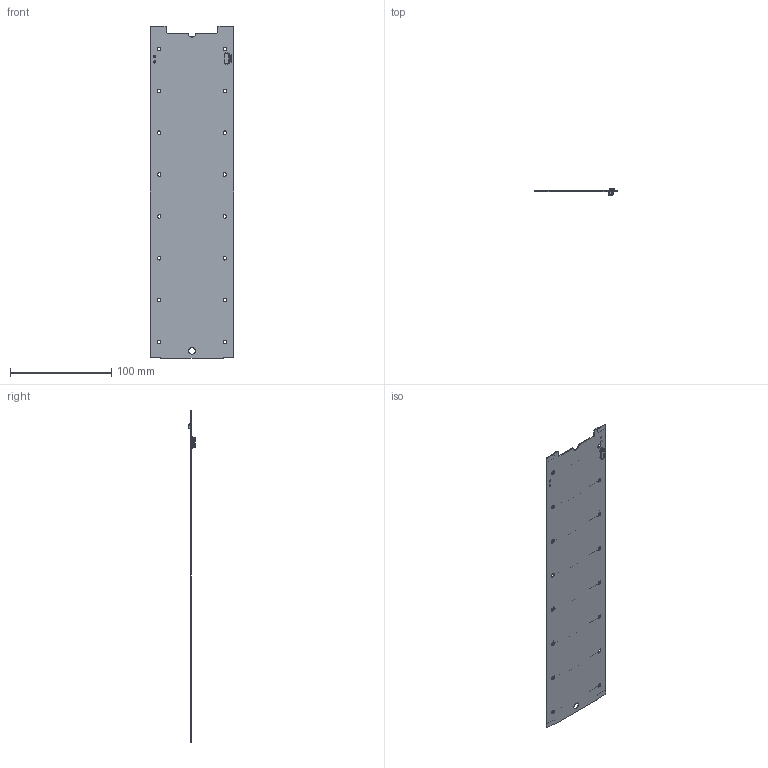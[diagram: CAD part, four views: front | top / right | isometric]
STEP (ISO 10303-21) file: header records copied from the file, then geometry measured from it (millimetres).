
FILE_DESCRIPTION (( 'STEP AP214' ), '1' );
FILE_NAME ('710-00772-B CSK 3U Fixed Solar Panel 031.STEP', '2019-05-31T00:12:26', ( '' ), ( '' ), 'SwSTEP 2.0', 'SolidWorks 2014', '' );
FILE_SCHEMA (( 'AUTOMOTIVE_DESIGN' ));
Length unit declared in the file: inch
Products named in the file (2): 710-00772-B CSK 3U Fixed Solar Panel 031
Bounding box: 82.55 x 6.14 x 327.51 mm (x, y, z)
Volume: 24898.9 mm3; surface area: 92049.3 mm2
Topology: 8 solids, 8 shells, 765 faces, 2089 edges, 1360 vertices
Faces by surface type: plane 580, cylinder 181, cone 4
Entity records: 30577 total; most frequent: CARTESIAN_POINT 4216, ORIENTED_EDGE 4178, DIRECTION 3995, EDGE_CURVE 2089, LINE 1717, VECTOR 1717, VERTEX_POINT 1360, AXIS2_PLACEMENT_3D 1139
